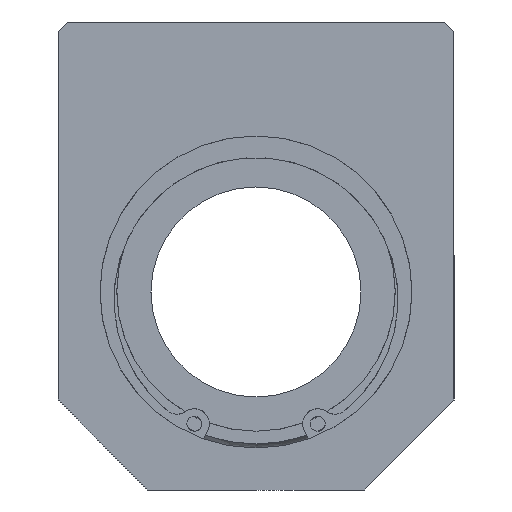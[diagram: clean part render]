
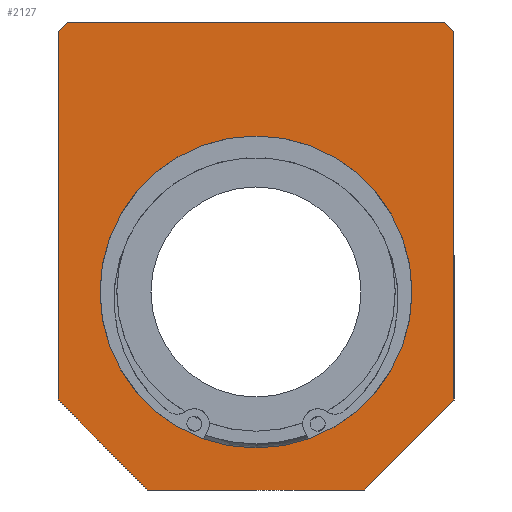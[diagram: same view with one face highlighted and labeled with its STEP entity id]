
A CAD part, left-side view. The second image highlights one B-rep face of the part: STEP entity #2127.
In plain terms, the highlighted planar face has unit normal (-1, 0, 0).
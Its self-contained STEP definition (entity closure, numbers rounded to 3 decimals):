
#2029=CARTESIAN_POINT('',(0.0,-31.5,45.));
#2030=VERTEX_POINT('',#2029);
#2037=CARTESIAN_POINT('',(0.0,-33.,43.5));
#2038=VERTEX_POINT('',#2037);
#2039=CARTESIAN_POINT('',(0.0,-31.5,45.));
#2040=DIRECTION('',(0.0,-0.707,-0.707));
#2041=VECTOR('',#2040,2.121);
#2042=LINE('',#2039,#2041);
#2043=EDGE_CURVE('',#2030,#2038,#2042,.T.);
#2054=CARTESIAN_POINT('',(0.0,0.,6.));
#2055=DIRECTION('',(1.0,0.0,0.0));
#2056=DIRECTION('',(0.0,0.0,-1.0));
#2057=AXIS2_PLACEMENT_3D('',#2054,#2055,#2056);
#2058=PLANE('',#2057);
#2059=ORIENTED_EDGE('',*,*,#2043,.F.);
#2060=CARTESIAN_POINT('',(0.0,31.5,45.));
#2061=VERTEX_POINT('',#2060);
#2062=CARTESIAN_POINT('',(0.0,-31.5,45.));
#2063=DIRECTION('',(0.0,1.0,0.0));
#2064=VECTOR('',#2063,63.);
#2065=LINE('',#2062,#2064);
#2066=EDGE_CURVE('',#2030,#2061,#2065,.T.);
#2067=ORIENTED_EDGE('',*,*,#2066,.T.);
#2068=CARTESIAN_POINT('',(0.0,33.,43.5));
#2069=VERTEX_POINT('',#2068);
#2070=CARTESIAN_POINT('',(0.0,33.,43.5));
#2071=DIRECTION('',(0.0,-0.707,0.707));
#2072=VECTOR('',#2071,2.121);
#2073=LINE('',#2070,#2072);
#2074=EDGE_CURVE('',#2069,#2061,#2073,.T.);
#2075=ORIENTED_EDGE('',*,*,#2074,.F.);
#2076=CARTESIAN_POINT('',(0.0,33.,-18.));
#2077=VERTEX_POINT('',#2076);
#2078=CARTESIAN_POINT('',(0.0,33.,43.5));
#2079=DIRECTION('',(0.0,0.0,-1.0));
#2080=VECTOR('',#2079,61.5);
#2081=LINE('',#2078,#2080);
#2082=EDGE_CURVE('',#2069,#2077,#2081,.T.);
#2083=ORIENTED_EDGE('',*,*,#2082,.T.);
#2084=CARTESIAN_POINT('',(0.0,18.,-33.));
#2085=VERTEX_POINT('',#2084);
#2086=CARTESIAN_POINT('',(0.0,18.,-33.));
#2087=DIRECTION('',(0.0,0.707,0.707));
#2088=VECTOR('',#2087,21.213);
#2089=LINE('',#2086,#2088);
#2090=EDGE_CURVE('',#2085,#2077,#2089,.T.);
#2091=ORIENTED_EDGE('',*,*,#2090,.F.);
#2092=CARTESIAN_POINT('',(0.0,-18.,-33.));
#2093=VERTEX_POINT('',#2092);
#2094=CARTESIAN_POINT('',(0.0,18.,-33.));
#2095=DIRECTION('',(0.0,-1.0,0.0));
#2096=VECTOR('',#2095,36.);
#2097=LINE('',#2094,#2096);
#2098=EDGE_CURVE('',#2085,#2093,#2097,.T.);
#2099=ORIENTED_EDGE('',*,*,#2098,.T.);
#2100=CARTESIAN_POINT('',(0.0,-33.,-18.));
#2101=VERTEX_POINT('',#2100);
#2102=CARTESIAN_POINT('',(0.0,-33.,-18.));
#2103=DIRECTION('',(0.0,0.707,-0.707));
#2104=VECTOR('',#2103,21.213);
#2105=LINE('',#2102,#2104);
#2106=EDGE_CURVE('',#2101,#2093,#2105,.T.);
#2107=ORIENTED_EDGE('',*,*,#2106,.F.);
#2108=CARTESIAN_POINT('',(0.0,-33.,-18.));
#2109=DIRECTION('',(0.0,0.0,1.0));
#2110=VECTOR('',#2109,61.5);
#2111=LINE('',#2108,#2110);
#2112=EDGE_CURVE('',#2101,#2038,#2111,.T.);
#2113=ORIENTED_EDGE('',*,*,#2112,.T.);
#2114=EDGE_LOOP('',(#2059,#2067,#2075,#2083,#2091,#2099,#2107,#2113));
#2115=FACE_OUTER_BOUND('',#2114,.T.);
#2116=CARTESIAN_POINT('',(0.0,26.0,0.));
#2117=VERTEX_POINT('',#2116);
#2118=CARTESIAN_POINT('',(0.0,0.0,0.0));
#2119=DIRECTION('',(1.0,0.0,0.0));
#2120=DIRECTION('',(0.0,-1.0,0.0));
#2121=AXIS2_PLACEMENT_3D('',#2118,#2119,#2120);
#2122=CIRCLE('',#2121,26.0);
#2123=EDGE_CURVE('',#2117,#2117,#2122,.T.);
#2124=ORIENTED_EDGE('',*,*,#2123,.T.);
#2125=EDGE_LOOP('',(#2124));
#2126=FACE_BOUND('',#2125,.T.);
#2127=ADVANCED_FACE('',(#2115,#2126),#2058,.F.);
